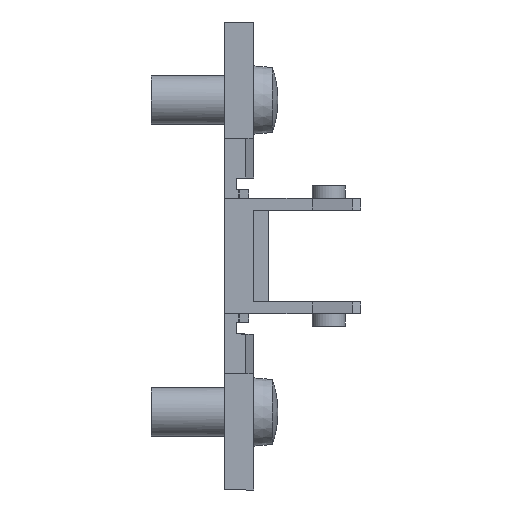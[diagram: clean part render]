
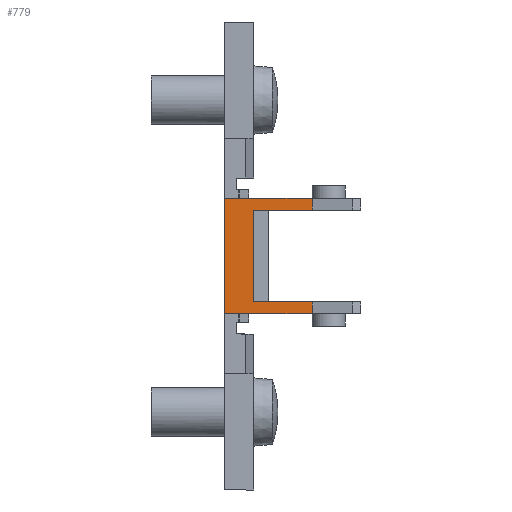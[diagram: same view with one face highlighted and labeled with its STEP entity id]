
A CAD part, front view. The second image highlights one B-rep face of the part: STEP entity #779.
In plain terms, the highlighted planar face has unit normal (0, -1, 0).
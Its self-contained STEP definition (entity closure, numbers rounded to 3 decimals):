
#11 = LINE ( 'NONE', #816, #448 ) ;
#68 = ORIENTED_EDGE ( 'NONE', *, *, #2939, .T. ) ;
#187 = EDGE_CURVE ( 'NONE', #1073, #2107, #4197, .T. ) ;
#448 = VECTOR ( 'NONE', #535, 1000. ) ;
#495 = EDGE_CURVE ( 'NONE', #2132, #2146, #2538, .T. ) ;
#535 = DIRECTION ( 'NONE',  ( 1., 0., 0. ) ) ;
#620 = LINE ( 'NONE', #4050, #4192 ) ;
#652 = CARTESIAN_POINT ( 'NONE',  ( 5.523, -25.55, 4.7 ) ) ;
#658 = VECTOR ( 'NONE', #957, 1000. ) ;
#743 = ORIENTED_EDGE ( 'NONE', *, *, #187, .F. ) ;
#779 = ADVANCED_FACE ( 'NONE', ( #2002 ), #2540, .T. ) ;
#816 = CARTESIAN_POINT ( 'NONE',  ( -2., -25.55, -5.9 ) ) ;
#821 = CARTESIAN_POINT ( 'NONE',  ( 10.5, -25.55, 5.9 ) ) ;
#883 = DIRECTION ( 'NONE',  ( 0., 0., -1. ) ) ;
#957 = DIRECTION ( 'NONE',  ( 0., 0., -1. ) ) ;
#1073 = VERTEX_POINT ( 'NONE', #4018 ) ;
#1357 = VERTEX_POINT ( 'NONE', #3237 ) ;
#1380 = EDGE_CURVE ( 'NONE', #2132, #1862, #4003, .T. ) ;
#1449 = LINE ( 'NONE', #1749, #3141 ) ;
#1749 = CARTESIAN_POINT ( 'NONE',  ( 10.5, -25.55, 4.7 ) ) ;
#1756 = VECTOR ( 'NONE', #2936, 1000. ) ;
#1862 = VERTEX_POINT ( 'NONE', #3948 ) ;
#1980 = CARTESIAN_POINT ( 'NONE',  ( -3.5, -25.55, -5.9 ) ) ;
#2002 = FACE_OUTER_BOUND ( 'NONE', #2755, .T. ) ;
#2023 = AXIS2_PLACEMENT_3D ( 'NONE', #3130, #3565, #2356 ) ;
#2060 = DIRECTION ( 'NONE',  ( 1., 0., 0. ) ) ;
#2107 = VERTEX_POINT ( 'NONE', #3085 ) ;
#2132 = VERTEX_POINT ( 'NONE', #3969 ) ;
#2146 = VERTEX_POINT ( 'NONE', #652 ) ;
#2161 = VECTOR ( 'NONE', #883, 1000. ) ;
#2280 = CARTESIAN_POINT ( 'NONE',  ( 5.523, -25.55, 67.733 ) ) ;
#2346 = VERTEX_POINT ( 'NONE', #2645 ) ;
#2356 = DIRECTION ( 'NONE',  ( -1., 0., 0. ) ) ;
#2527 = DIRECTION ( 'NONE',  ( -1., 0., 0. ) ) ;
#2538 = LINE ( 'NONE', #3708, #658 ) ;
#2540 = PLANE ( 'NONE',  #2023 ) ;
#2573 = DIRECTION ( 'NONE',  ( 1., 0., 0. ) ) ;
#2645 = CARTESIAN_POINT ( 'NONE',  ( -0.5, -25.55, 4.7 ) ) ;
#2755 = EDGE_LOOP ( 'NONE', ( #3561, #68, #3539, #4160, #2838, #3646, #743, #3891 ) ) ;
#2780 = VERTEX_POINT ( 'NONE', #1980 ) ;
#2838 = ORIENTED_EDGE ( 'NONE', *, *, #4432, .T. ) ;
#2936 = DIRECTION ( 'NONE',  ( 0., 0., -1. ) ) ;
#2939 = EDGE_CURVE ( 'NONE', #2346, #2146, #1449, .T. ) ;
#3017 = VECTOR ( 'NONE', #2573, 1000. ) ;
#3085 = CARTESIAN_POINT ( 'NONE',  ( 5.523, -25.55, -5.9 ) ) ;
#3122 = LINE ( 'NONE', #4283, #2161 ) ;
#3130 = CARTESIAN_POINT ( 'NONE',  ( 10.5, -25.55, -5.9 ) ) ;
#3141 = VECTOR ( 'NONE', #2060, 1000. ) ;
#3209 = EDGE_CURVE ( 'NONE', #2780, #2107, #11, .T. ) ;
#3237 = CARTESIAN_POINT ( 'NONE',  ( -0.5, -25.55, -4.7 ) ) ;
#3469 = VECTOR ( 'NONE', #2527, 1000. ) ;
#3539 = ORIENTED_EDGE ( 'NONE', *, *, #495, .F. ) ;
#3561 = ORIENTED_EDGE ( 'NONE', *, *, #3609, .F. ) ;
#3565 = DIRECTION ( 'NONE',  ( 0., -1., 0. ) ) ;
#3609 = EDGE_CURVE ( 'NONE', #2346, #1357, #620, .T. ) ;
#3646 = ORIENTED_EDGE ( 'NONE', *, *, #3209, .T. ) ;
#3708 = CARTESIAN_POINT ( 'NONE',  ( 5.523, -25.55, 67.733 ) ) ;
#3891 = ORIENTED_EDGE ( 'NONE', *, *, #4105, .F. ) ;
#3948 = CARTESIAN_POINT ( 'NONE',  ( -3.5, -25.55, 5.9 ) ) ;
#3969 = CARTESIAN_POINT ( 'NONE',  ( 5.523, -25.55, 5.9 ) ) ;
#4003 = LINE ( 'NONE', #821, #3469 ) ;
#4018 = CARTESIAN_POINT ( 'NONE',  ( 5.523, -25.55, -4.7 ) ) ;
#4050 = CARTESIAN_POINT ( 'NONE',  ( -0.5, -25.55, -5.9 ) ) ;
#4105 = EDGE_CURVE ( 'NONE', #1357, #1073, #4414, .T. ) ;
#4160 = ORIENTED_EDGE ( 'NONE', *, *, #1380, .T. ) ;
#4192 = VECTOR ( 'NONE', #4424, 1000. ) ;
#4197 = LINE ( 'NONE', #2280, #1756 ) ;
#4283 = CARTESIAN_POINT ( 'NONE',  ( -3.5, -25.55, 15.37 ) ) ;
#4302 = CARTESIAN_POINT ( 'NONE',  ( 10.5, -25.55, -4.7 ) ) ;
#4414 = LINE ( 'NONE', #4302, #3017 ) ;
#4424 = DIRECTION ( 'NONE',  ( 0., 0., -1. ) ) ;
#4432 = EDGE_CURVE ( 'NONE', #1862, #2780, #3122, .T. ) ;
